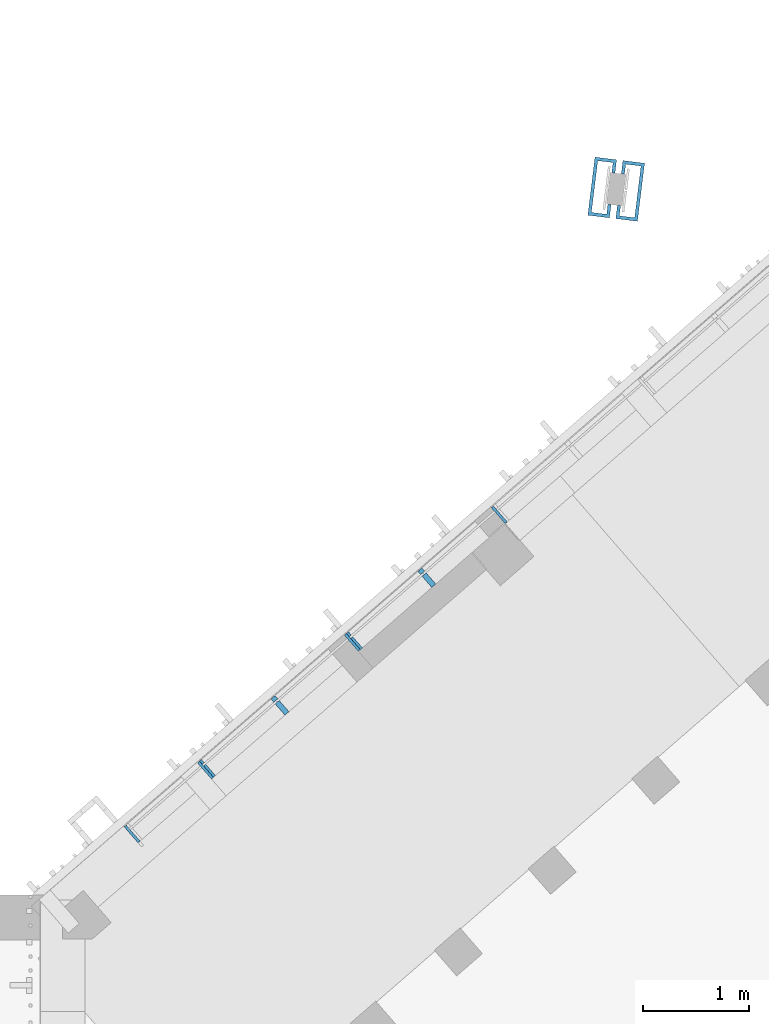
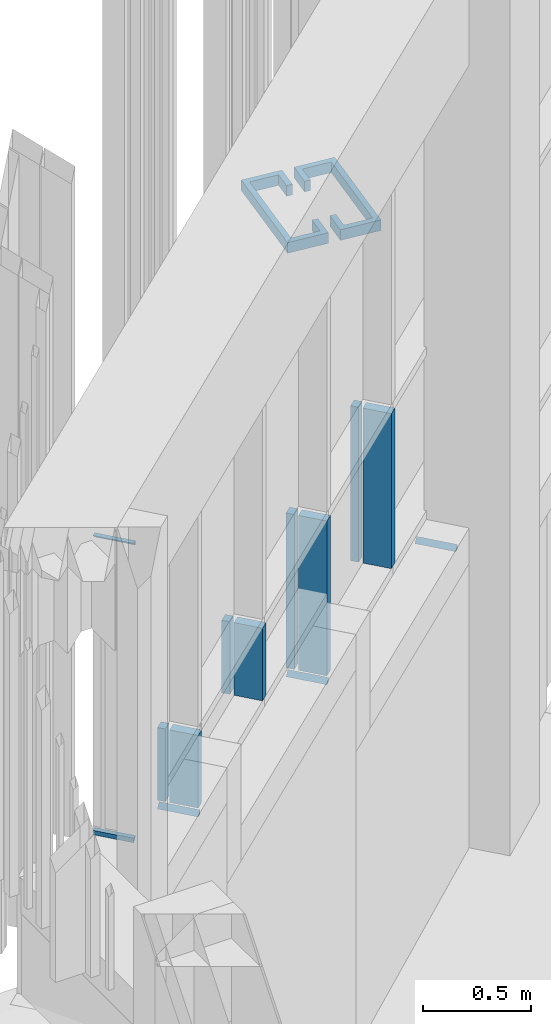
# One storey, part 63 of 390: 11 discrete accessories, 1 element without a shape of its own.
"""IFC2X3 building model written with IfcOpenShell, lengths in millimetres."""

from ifc_helpers import new_model, entity, si_unit, converted_unit, derived_unit, money_unit, direction, frame, origin_with_axes, place, context, subcontext, project, spatial, polyline, outline, extrude, clip, halfspace, material, material_list, type_object, element, aggregate, save


model = new_model("IFC2X3")

# Units and contexts
model_context = context("Model", 3, precision=1e-05, world=origin_with_axes(), true_north=direction((0.0, 1.0)))
body_context = subcontext(model_context, "Body", "Model", "MODEL_VIEW")
ifc_project = project(units=[si_unit("LENGTHUNIT", "METRE", prefix="MILLI"), si_unit("AREAUNIT", "SQUARE_METRE"), si_unit("VOLUMEUNIT", "CUBIC_METRE"), converted_unit("PLANEANGLEUNIT", "DEGREE", entity("IfcPlaneAngleMeasure", 0.0174532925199), si_unit("PLANEANGLEUNIT", "RADIAN"), dimensions=[0, 0, 0, 0, 0, 0, 0]), si_unit("SOLIDANGLEUNIT", "STERADIAN"), money_unit("EUR"), converted_unit("TIMEUNIT", "Year", entity("IfcTimeMeasure", 31556926.0), si_unit("TIMEUNIT", "SECOND"), dimensions=[0, 0, 1, 0, 0, 0, 0]), si_unit("MASSUNIT", "GRAM", prefix="KILO"), si_unit("THERMODYNAMICTEMPERATUREUNIT", "DEGREE_CELSIUS"), si_unit("LUMINOUSINTENSITYUNIT", "LUMEN"), si_unit("ENERGYUNIT", "JOULE", prefix="MEGA"), derived_unit("THERMALCONDUCTANCEUNIT", [(si_unit("POWERUNIT", "WATT"), 1), (si_unit("LENGTHUNIT", "METRE"), -1), (si_unit("THERMODYNAMICTEMPERATUREUNIT", "KELVIN"), -1)]), derived_unit("SPECIFICHEATCAPACITYUNIT", [(si_unit("ENERGYUNIT", "JOULE"), 1), (si_unit("MASSUNIT", "GRAM", prefix="KILO"), -1), (si_unit("THERMODYNAMICTEMPERATUREUNIT", "KELVIN"), -1)]), derived_unit("MASSDENSITYUNIT", [(si_unit("MASSUNIT", "GRAM", prefix="KILO"), 1), (si_unit("VOLUMEUNIT", "CUBIC_METRE"), -1)])], contexts=[model_context])

# Site, building, storey
site_placement = place(None, origin_with_axes())
site = spatial("IfcSite", under=ifc_project, at=site_placement, Name="Site", CompositionType="ELEMENT")
building_placement = place(site_placement, origin_with_axes())
building = spatial("IfcBuilding", under=site, at=building_placement, Name="Building", CompositionType="ELEMENT")
storey_placement = place(building_placement, origin_with_axes())
storey = spatial("IfcBuildingStorey", under=building, at=storey_placement, Name="1 korrus", CompositionType="ELEMENT", Elevation=0.0)

# Discrete accessories
ifc_material_1 = material(Name="Teras (musta värvi)")
discrete_accessory_type_1 = type_object("IfcDiscreteAccessoryType", Name="Teras (musta värvi) 60")
discrete_accessory_1_placement = place(storey_placement, frame((128173.122425, 83292.3369155, 740.0), z_axis=(0.0, 0.0, 1.0), x_axis=(1.0, 0.0, 0.0)))
element("IfcDiscreteAccessory", 1, at=discrete_accessory_1_placement, inside=storey, type_object=discrete_accessory_type_1, material=ifc_material_1, Name="Rattahoidja", context=body_context, shape_type="SweptSolid", body=[
    extrude(outline(polyline([(0.0, 0.0), (-203.471963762, 24.9832132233), (-218.705629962, -99.0850523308), (-188.929244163, -102.741136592), (-177.351660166, -8.44924858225), (-33.4324618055, -26.1203035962), (-93.1484414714, -512.467919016), (-237.067631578, -494.79686606), (-225.49004758, -400.504978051), (-255.266435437, -396.848902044), (-270.500101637, -520.917167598), (-67.0281378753, -545.900380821), (0.0, 0.0)])), frame((0.0, 0.0, -60.0), z_axis=(0.0, 0.0, 1.0), x_axis=(1.0, 0.0, 0.0)), (0.0, 0.0, 1.0), 60.0),
])
discrete_accessory_2_placement = place(storey_placement, frame((127706.625734, 83349.6155068, 740.0), z_axis=(0.0, 0.0, 1.0), x_axis=(1.0, 0.0, 0.0)))
element("IfcDiscreteAccessory", 2, at=discrete_accessory_2_placement, inside=storey, type_object=discrete_accessory_type_1, material=ifc_material_1, Name="Rattahoidja", context=body_context, shape_type="SweptSolid", body=[
    extrude(outline(polyline([(0.0, 0.0), (-67.0281391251, -545.900380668), (136.443824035, -570.883598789), (151.677492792, -446.815333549), (121.901106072, -443.159248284), (110.323514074, -537.451135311), (-33.5956756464, -519.780079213), (26.1203014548, -33.4324634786), (170.039499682, -51.1035195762), (158.461907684, -145.395406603), (188.238294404, -149.051483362), (203.471963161, -24.9832181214), (0.0, 0.0)])), frame((0.0, 0.0, -60.0), z_axis=(0.0, 0.0, 1.0), x_axis=(1.0, 0.0, 0.0)), (0.0, 0.0, 1.0), 60.0),
])

# Curtain wall, discrete accessories
curtain_wall_type = type_object("IfcCurtainWallType", Name="KLF-16", PredefinedType="NOTDEFINED")
curtain_wall_placement = place(storey_placement, frame((129915.663376, 82755.7268841, -0.000187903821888), z_axis=(0.0, 0.0, 1.0), x_axis=(1.0, 0.0, 0.0)))
curtain_wall = element("IfcCurtainWall", 3, at=curtain_wall_placement, inside=storey, type_object=curtain_wall_type, Name="Klaasfassaad")
ifc_material_2 = material(Name="Aluminium MUST")
ifc_material_list_1 = material_list([ifc_material_2, ifc_material_2])
discrete_accessory_type_2 = type_object("IfcDiscreteAccessoryType", Name="50 x 200")
discrete_accessory_3_placement = place(curtain_wall_placement, frame((-5894.28181907, -5123.82101925, 1950.00018143), z_axis=(0.0, 0.0, 1.0), x_axis=(0.754709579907, 0.656059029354, 0.0)))
discrete_accessory_3 = element("IfcDiscreteAccessory", 4, at=discrete_accessory_3_placement, type_object=discrete_accessory_type_2, material=ifc_material_list_1, Name="KLF-16 profiil", context=body_context, shape_type="SweptSolid", body=[
    extrude(outline(polyline([(117.276593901, -96.8049612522), (25.4283297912, 8.85437993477), (-12.3071492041, -23.9485715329), (79.5411149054, -129.60791272), (117.276593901, -96.8049612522)])), frame((0.0, 0.0, 50.0), z_axis=(0.0, 0.0, 1.0), x_axis=(0.754709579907, -0.656059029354, 0.0)), (0.0, 0.0, 1.0), 410.000006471),
    extrude(outline(polyline([(-51.6706909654, 21.3340032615), (-25.4283297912, -8.85437993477), (12.3071492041, 23.9485715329), (-13.93521197, 54.1369547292), (-51.6706909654, 21.3340032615)])), frame((0.0, 0.0, 50.0), z_axis=(0.0, 0.0, 1.0), x_axis=(0.754709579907, -0.656059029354, 0.0)), (0.0, 0.0, 1.0), 410.000006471),
])
ifc_material_list_2 = material_list([ifc_material_2, ifc_material_2, ifc_material_2])
discrete_accessory_4_placement = place(curtain_wall_placement, frame((-4513.16328784, -3923.23299553, 1485.00012939), z_axis=(-0.754709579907, -0.656059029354, 0.0), x_axis=(0.0, 0.0, 1.0)))
discrete_accessory_4 = element("IfcDiscreteAccessory", 5, at=discrete_accessory_4_placement, type_object=discrete_accessory_type_2, material=ifc_material_list_2, Name="KLF-16 profiil", context=body_context, shape_type="Clipping", body=[
    clip(extrude(outline(polyline([(-9.99999999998, -25.0), (10.0, -25.0), (10.0, 0.0), (-9.99999999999, 0.0), (-9.99999999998, -25.0)])), frame((0.0, 0.0, 0.0), z_axis=(0.0, 0.0, 1.0), x_axis=(0.0, 1.0, 0.0)), (0.0, 0.0, 1.0), 25.000029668), halfspace(frame((12.500014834, 0.0, 12.500014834), z_axis=(-0.707106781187, 0.0, -0.707106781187), x_axis=(0.0, 1.0, 0.0)), True)),
    clip(extrude(outline(polyline([(-9.99999999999, -25.000029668), (-9.99999999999, 0.0), (-150.0, 0.0), (-150.0, -25.000029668), (-9.99999999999, -25.000029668)])), frame((0.0, 0.0, 0.0), z_axis=(0.0, 0.0, 1.0), x_axis=(0.0, 1.0, 0.0)), (0.0, 0.0, 1.0), 25.000029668), halfspace(frame((12.500014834, 0.0, 12.500014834), z_axis=(-0.707106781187, 0.0, -0.707106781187), x_axis=(0.0, 1.0, 0.0)), True)),
    clip(extrude(outline(polyline([(10.0, -25.000029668), (50.0, -25.000029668), (50.0, 0.0), (10.0, 0.0), (10.0, -25.000029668)])), frame((0.0, 0.0, 0.0), z_axis=(0.0, 0.0, 1.0), x_axis=(0.0, 1.0, 0.0)), (0.0, 0.0, 1.0), 25.0000296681), halfspace(frame((12.500014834, 0.0, 12.500014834), z_axis=(-0.707106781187, 0.0, -0.707106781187), x_axis=(0.0, 1.0, 0.0)), True)),
])
discrete_accessory_5_placement = place(curtain_wall_placement, frame((-5203.72255346, -4523.52700739, 1950.00018143), z_axis=(0.0, 0.0, 1.0), x_axis=(0.754709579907, 0.656059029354, 0.0)))
discrete_accessory_5 = element("IfcDiscreteAccessory", 6, at=discrete_accessory_5_placement, type_object=discrete_accessory_type_2, material=ifc_material_list_1, Name="KLF-16 profiil", context=body_context, shape_type="SweptSolid", body=[
    extrude(outline(polyline([(117.276593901, -96.8049612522), (25.4283297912, 8.85437993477), (-12.3071492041, -23.9485715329), (79.5411149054, -129.60791272), (117.276593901, -96.8049612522)])), frame((0.0, 0.0, 50.0), z_axis=(0.0, 0.0, 1.0), x_axis=(0.754709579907, -0.656059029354, 0.0)), (0.0, 0.0, 1.0), 410.000006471),
    extrude(outline(polyline([(-51.6706909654, 21.3340032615), (-25.4283297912, -8.85437993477), (12.3071492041, 23.9485715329), (-13.93521197, 54.1369547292), (-51.6706909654, 21.3340032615)])), frame((0.0, 0.0, 50.0), z_axis=(0.0, 0.0, 1.0), x_axis=(0.754709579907, -0.656059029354, 0.0)), (0.0, 0.0, 1.0), 410.000006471),
])
discrete_accessory_6_placement = place(curtain_wall_placement, frame((-4513.16328784, -3923.23299553, 1485.00012939), z_axis=(0.0, 0.0, 1.0), x_axis=(0.754709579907, 0.656059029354, 0.0)))
discrete_accessory_6 = element("IfcDiscreteAccessory", 7, at=discrete_accessory_6_placement, type_object=discrete_accessory_type_2, material=ifc_material_list_1, Name="KLF-16 profiil", context=body_context, shape_type="SweptSolid", body=[
    extrude(outline(polyline([(117.276593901, -96.8049612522), (25.4283297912, 8.85437993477), (-12.3071492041, -23.9485715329), (79.5411149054, -129.60791272), (117.276593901, -96.8049612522)])), frame((0.0, 0.0, 50.0), z_axis=(0.0, 0.0, 1.0), x_axis=(0.754709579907, -0.656059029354, 0.0)), (0.0, 0.0, 1.0), 875.000058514),
    extrude(outline(polyline([(-51.6706909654, 21.3340032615), (-25.4283297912, -8.85437993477), (12.3071492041, 23.9485715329), (-13.93521197, 54.1369547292), (-51.6706909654, 21.3340032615)])), frame((0.0, 0.0, 50.0), z_axis=(0.0, 0.0, 1.0), x_axis=(0.754709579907, -0.656059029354, 0.0)), (0.0, 0.0, 1.0), 875.000058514),
])
discrete_accessory_7_placement = place(curtain_wall_placement, frame((-3822.60402223, -3322.93898368, 1485.00012939), z_axis=(0.0, 0.0, 1.0), x_axis=(0.754709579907, 0.656059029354, 0.0)))
discrete_accessory_7 = element("IfcDiscreteAccessory", 8, at=discrete_accessory_7_placement, type_object=discrete_accessory_type_2, material=ifc_material_list_1, Name="KLF-16 profiil", context=body_context, shape_type="SweptSolid", body=[
    extrude(outline(polyline([(117.276593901, -96.8049612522), (25.4283297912, 8.85437993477), (-12.3071492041, -23.9485715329), (79.5411149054, -129.60791272), (117.276593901, -96.8049612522)])), frame((0.0, 0.0, 50.0), z_axis=(0.0, 0.0, 1.0), x_axis=(0.754709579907, -0.656059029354, 0.0)), (0.0, 0.0, 1.0), 875.000058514),
    extrude(outline(polyline([(-51.6706909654, 21.3340032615), (-25.4283297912, -8.85437993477), (12.3071492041, 23.9485715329), (-13.93521197, 54.1369547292), (-51.6706909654, 21.3340032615)])), frame((0.0, 0.0, 50.0), z_axis=(0.0, 0.0, 1.0), x_axis=(0.754709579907, -0.656059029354, 0.0)), (0.0, 0.0, 1.0), 875.000058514),
])
discrete_accessory_8_placement = place(curtain_wall_placement, frame((-3132.04475661, -2722.64497182, 1025.00031498), z_axis=(-0.754709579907, -0.656059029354, 0.0), x_axis=(0.0, 0.0, 1.0)))
discrete_accessory_8 = element("IfcDiscreteAccessory", 9, at=discrete_accessory_8_placement, type_object=discrete_accessory_type_2, material=ifc_material_list_2, Name="KLF-16 profiil", context=body_context, shape_type="Clipping", body=[
    clip(extrude(outline(polyline([(-10.0, -25.0), (10.0, -25.0), (10.0, 0.0), (-10.0, 0.0), (-10.0, -25.0)])), frame((0.0, 0.0, 0.0), z_axis=(0.0, 0.0, 1.0), x_axis=(0.0, 1.0, 0.0)), (0.0, 0.0, 1.0), 25.0001147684), halfspace(frame((12.5000573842, 0.0, 12.5000573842), z_axis=(-0.707106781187, 0.0, -0.707106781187), x_axis=(0.0, 1.0, 0.0)), True)),
    clip(extrude(outline(polyline([(-10.0, -25.0001147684), (-10.0, 0.0), (-150.0, 0.0), (-150.0, -25.0001147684), (-10.0, -25.0001147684)])), frame((0.0, 0.0, 0.0), z_axis=(0.0, 0.0, 1.0), x_axis=(0.0, 1.0, 0.0)), (0.0, 0.0, 1.0), 25.0001147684), halfspace(frame((12.5000573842, 0.0, 12.5000573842), z_axis=(-0.707106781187, 0.0, -0.707106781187), x_axis=(0.0, 1.0, 0.0)), True)),
    clip(extrude(outline(polyline([(10.0, -25.0001147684), (50.0, -25.0001147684), (50.0, 0.0), (10.0, 0.0), (10.0, -25.0001147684)])), frame((0.0, 0.0, 0.0), z_axis=(0.0, 0.0, 1.0), x_axis=(0.0, 1.0, 0.0)), (0.0, 0.0, 1.0), 25.0001147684), halfspace(frame((12.5000573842, 0.0, 12.5000573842), z_axis=(-0.707106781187, 0.0, -0.707106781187), x_axis=(0.0, 1.0, 0.0)), True)),
])
discrete_accessory_9_placement = place(curtain_wall_placement, frame((-6603.70869812, -5740.51639725, 2410.00017848), z_axis=(0.0, 0.0, 1.0), x_axis=(0.754709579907, 0.656059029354, 0.0)))
discrete_accessory_9 = element("IfcDiscreteAccessory", 10, at=discrete_accessory_9_placement, type_object=discrete_accessory_type_2, material=ifc_material_list_2, Name="KLF-16 profiil", context=body_context, shape_type="Clipping", body=[
    clip(extrude(outline(polyline([(25.4283297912, 8.85437993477), (12.3071492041, 23.9485715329), (-6.56059029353, 7.54709579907), (6.56059029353, -7.54709579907), (25.4283297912, 8.85437993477)])), frame((0.0, 0.0, 0.0), z_axis=(0.0, 0.0, 1.0), x_axis=(0.754709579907, -0.656059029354, 0.0)), (0.0, 0.0, 1.0), 25.0000132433), halfspace(frame((0.0, 0.0, 0.0), z_axis=(-0.707106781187, 0.0, 0.707106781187), x_axis=(0.0, -1.0, 0.0)), True)),
    clip(extrude(outline(polyline([(25.4283397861, 8.85438862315), (6.56059029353, -7.54709579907), (98.408854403, -113.206436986), (117.276603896, -96.8049525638), (25.4283397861, 8.85438862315)])), frame((0.0, 0.0, 0.0), z_axis=(0.0, 0.0, 1.0), x_axis=(0.754709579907, -0.656059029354, 0.0)), (0.0, 0.0, 1.0), 25.0000132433), halfspace(frame((0.0, 0.0, 0.0), z_axis=(-0.707106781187, 0.0, 0.707106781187), x_axis=(0.0, -1.0, 0.0)), True)),
    clip(extrude(outline(polyline([(-32.8029514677, 37.7354789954), (-6.56059029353, 7.54709579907), (12.307159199, 23.9485802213), (-13.9352019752, 54.1369634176), (-32.8029514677, 37.7354789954)])), frame((0.0, 0.0, 0.0), z_axis=(0.0, 0.0, 1.0), x_axis=(0.754709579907, -0.656059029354, 0.0)), (0.0, 0.0, 1.0), 25.0000132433), halfspace(frame((0.0, 0.0, 0.0), z_axis=(-0.707106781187, 0.0, 0.707106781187), x_axis=(0.0, -1.0, 0.0)), True)),
])
discrete_accessory_10_placement = place(curtain_wall_placement, frame((-6603.70888989, -5740.51656396, 4099.99992684), z_axis=(0.754709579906, 0.656059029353, -1.81114758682e-06), x_axis=(-1.3668904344e-06, -1.18821972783e-06, -0.999999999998)))
discrete_accessory_10 = element("IfcDiscreteAccessory", 11, at=discrete_accessory_10_placement, type_object=discrete_accessory_type_2, material=ifc_material_list_2, Name="KLF-16 profiil", context=body_context, shape_type="Clipping", body=[
    clip(extrude(outline(polyline([(10.0, 25.0), (-9.99999999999, 25.0), (-9.99999999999, 0.0), (10.0, 0.0), (10.0, 25.0)])), frame((0.0, 0.0, 0.0), z_axis=(0.0, 0.0, 1.0), x_axis=(0.0, -1.0, 0.0)), (0.0, 0.0, 1.0), 25.0001323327), halfspace(frame((0.0, 0.0, 0.0), z_axis=(-0.707107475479, 0.0, 0.707106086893), x_axis=(0.0, -1.0, 0.0)), True)),
    clip(extrude(outline(polyline([(9.99999999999, 25.0000832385), (10.0, 0.0), (150.0, 0.0), (150.0, 25.0000832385), (9.99999999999, 25.0000832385)])), frame((0.0, 0.0, 0.0), z_axis=(0.0, 0.0, 1.0), x_axis=(0.0, -1.0, 0.0)), (0.0, 0.0, 1.0), 25.0001323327), halfspace(frame((0.0, 0.0, 0.0), z_axis=(-0.707107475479, 0.0, 0.707106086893), x_axis=(0.0, -1.0, 0.0)), True)),
    clip(extrude(outline(polyline([(-50.0, 0.0), (-9.99999999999, 0.0), (-10.0, 25.0000832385), (-50.0, 25.0000832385), (-50.0, 0.0)])), frame((0.0, 0.0, 0.0), z_axis=(0.0, 0.0, 1.0), x_axis=(0.0, -1.0, 0.0)), (0.0, 0.0, 1.0), 25.0001323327), halfspace(frame((0.0, 0.0, 0.0), z_axis=(-0.707107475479, 0.0, 0.707106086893), x_axis=(0.0, -1.0, 0.0)), True)),
])
discrete_accessory_11_placement = place(curtain_wall_placement, frame((-5894.28181907, -5123.82101925, 1950.00018143), z_axis=(-0.754709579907, -0.656059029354, 0.0), x_axis=(0.0, 0.0, 1.0)))
discrete_accessory_11 = element("IfcDiscreteAccessory", 12, at=discrete_accessory_11_placement, type_object=discrete_accessory_type_2, material=ifc_material_list_2, Name="KLF-16 profiil", context=body_context, shape_type="Clipping", body=[
    clip(extrude(outline(polyline([(-10.0, -25.0), (9.99999999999, -25.0), (10.0, 0.0), (-10.0, 0.0), (-10.0, -25.0)])), frame((0.0, 0.0, 0.0), z_axis=(0.0, 0.0, 1.0), x_axis=(0.0, 1.0, 0.0)), (0.0, 0.0, 1.0), 25.0001411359), halfspace(frame((12.5000705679, 0.0, 12.5000705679), z_axis=(-0.707106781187, 0.0, -0.707106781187), x_axis=(0.0, 1.0, 0.0)), True)),
    clip(extrude(outline(polyline([(-10.0, -25.0001411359), (-10.0, 0.0), (-150.0, 0.0), (-150.0, -25.0001411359), (-10.0, -25.0001411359)])), frame((0.0, 0.0, 0.0), z_axis=(0.0, 0.0, 1.0), x_axis=(0.0, 1.0, 0.0)), (0.0, 0.0, 1.0), 25.0001411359), halfspace(frame((12.5000705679, 0.0, 12.5000705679), z_axis=(-0.707106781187, 0.0, -0.707106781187), x_axis=(0.0, 1.0, 0.0)), True)),
    clip(extrude(outline(polyline([(10.0, -25.0001411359), (50.0, -25.0001411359), (50.0, 0.0), (10.0, 0.0), (10.0, -25.0001411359)])), frame((0.0, 0.0, 0.0), z_axis=(0.0, 0.0, 1.0), x_axis=(0.0, 1.0, 0.0)), (0.0, 0.0, 1.0), 25.0001411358), halfspace(frame((12.5000705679, 0.0, 12.5000705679), z_axis=(-0.707106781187, 0.0, -0.707106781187), x_axis=(0.0, 1.0, 0.0)), True)),
])
aggregate(curtain_wall, [discrete_accessory_3, discrete_accessory_4, discrete_accessory_5, discrete_accessory_6, discrete_accessory_7, discrete_accessory_8, discrete_accessory_9, discrete_accessory_10, discrete_accessory_11])

save(model, "model.ifc")
